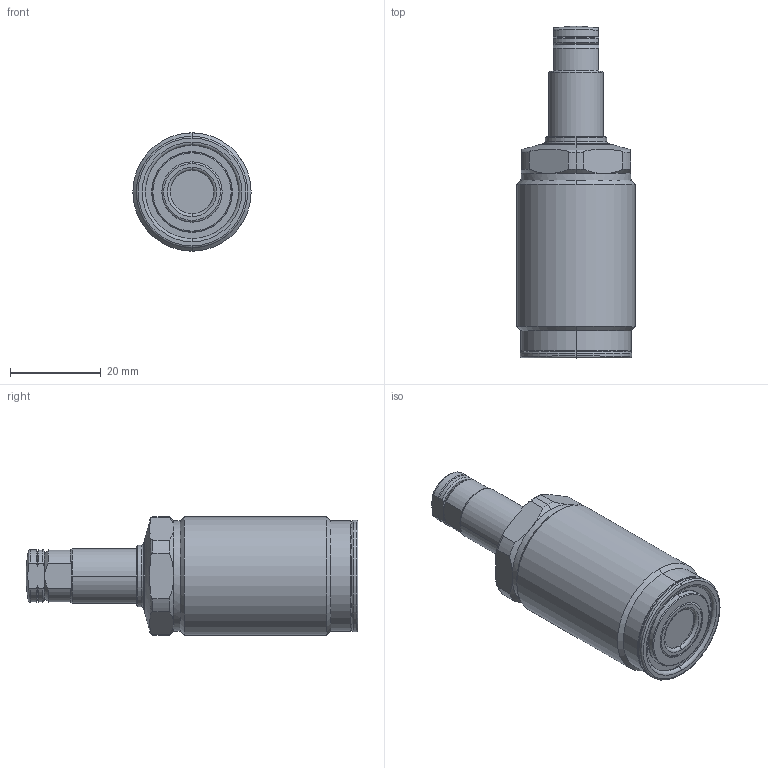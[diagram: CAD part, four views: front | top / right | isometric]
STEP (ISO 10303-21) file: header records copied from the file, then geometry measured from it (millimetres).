
FILE_DESCRIPTION(/* description */ (''),/* implementation_level */ '2;1');
FILE_NAME(/* name */ 'GSS00-Q.stp',/* time_stamp */ '2025-01-05T13:13:41+08:00',/* author */ (''),/* organization */ (''),/* preprocessor_version */ 'ST-DEVELOPER v16.7',/* originating_system */ 'SIEMENS PLM Software NX 12.0',/* authorisation */ '');
FILE_SCHEMA (('AUTOMOTIVE_DESIGN { 1 0 10303 214 3 1 1 1 }'));
Length unit declared in the file: millimetre
Products named in the file (6): GSS00-Q-06; GSS00-Q-05; GSS00-Q-04; GSS00-Q-02; GSS00-Q-01; TNC0403-EQ_step
Assembly tree (5 placements, depth 2):
  TNC0403-EQ_step
    GSS00-Q-01
    GSS00-Q-02
    GSS00-Q-04
    GSS00-Q-05
    GSS00-Q-06
Bounding box: 26 x 73 x 26 mm (x, y, z)
Volume: 24736.8 mm3; surface area: 7691 mm2
Topology: 5 solids, 5 shells, 166 faces, 371 edges, 223 vertices
Faces by surface type: cylinder 48, torus 47, plane 35, cone 34, sphere 2
Full cylindrical faces by diameter (mm): 24.2 x1, 26 x1
Entity records: 5142 total; most frequent: CARTESIAN_POINT 1204, DIRECTION 886, ORIENTED_EDGE 746, AXIS2_PLACEMENT_3D 395, EDGE_CURVE 373, VERTEX_POINT 227, CIRCLE 217, EDGE_LOOP 182
